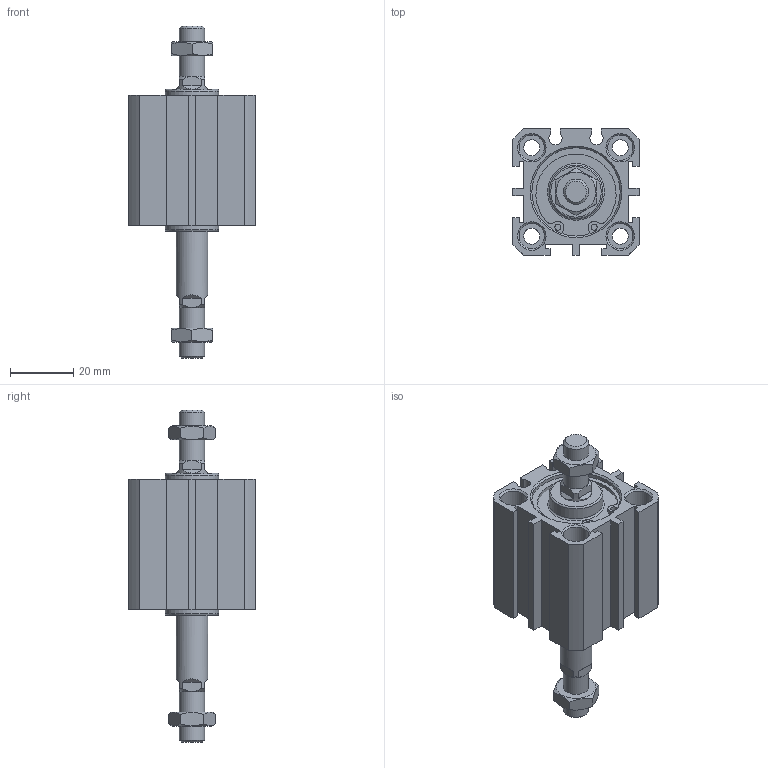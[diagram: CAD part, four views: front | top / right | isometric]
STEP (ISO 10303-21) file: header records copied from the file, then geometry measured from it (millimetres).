
FILE_DESCRIPTION((''),'2;1');
FILE_NAME('I:\3D電子目錄\氣缸\JDD\JDD-B\JDD25-B\JDD25x20-B.stp','2007-02-27T13:55:20',('662F206'),(''),'Autodesk Inventor 10','Autodesk Inventor 10','');
FILE_SCHEMA(('AUTOMOTIVE_DESIGN { 1 0 10303 214 1 1 1 1 }'));
Length unit declared in the file: millimetre
Products named in the file (3): JDD25-B; R 形環 28
Assembly tree (3 placements, depth 2):
  JDD25-B
    JDD25-B
    R 形環 28  x2
Bounding box: 40 x 40 x 105.2 mm (x, y, z)
Volume: 55570.1 mm3; surface area: 19907.8 mm2
Topology: 3 solids, 3 shells, 192 faces, 454 edges, 294 vertices
Faces by surface type: plane 108, cylinder 50, cone 26, bspline 6, torus 2
Full cylindrical faces by diameter (mm): 1.5 x2, 1.9 x4, 5.1 x4, 8 x12, 10 x2, 17 x2, 28 x4, 29.4 x2
Entity records: 4989 total; most frequent: CARTESIAN_POINT 1022, DIRECTION 812, ORIENTED_EDGE 724, EDGE_CURVE 362, AXIS2_PLACEMENT_3D 310, EDGE_LOOP 272, VERTEX_POINT 266, VECTOR 192
